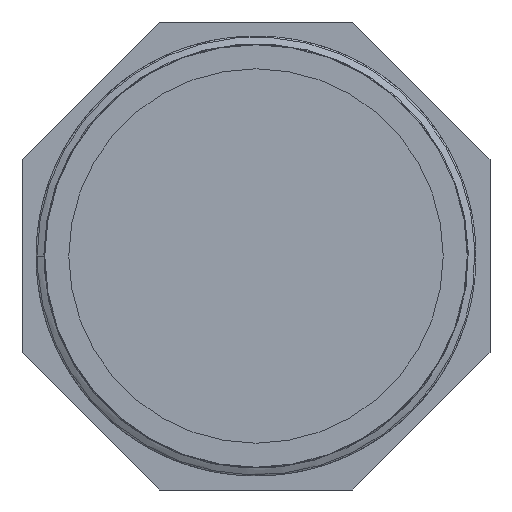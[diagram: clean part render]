
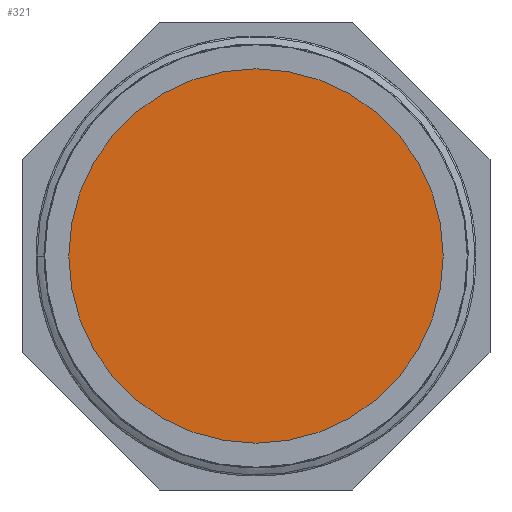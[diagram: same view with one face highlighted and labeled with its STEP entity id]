
A CAD part, front view. The second image highlights one B-rep face of the part: STEP entity #321.
In plain terms, the highlighted planar face has unit normal (0, -1, 0).
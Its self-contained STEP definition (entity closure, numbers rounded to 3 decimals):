
#22=PLANE('',#342);
#37=CIRCLE('',#343,32.);
#47=FACE_OUTER_BOUND('',#68,.T.);
#68=EDGE_LOOP('',(#263));
#166=VERTEX_POINT('',#6058);
#202=EDGE_CURVE('',#166,#166,#37,.T.);
#263=ORIENTED_EDGE('',*,*,#202,.F.);
#321=ADVANCED_FACE('',(#47),#22,.T.);
#342=AXIS2_PLACEMENT_3D('',#6057,#383,#384);
#343=AXIS2_PLACEMENT_3D('',#6059,#385,#386);
#383=DIRECTION('center_axis',(0.,-1.,0.));
#384=DIRECTION('ref_axis',(0.,0.,-1.));
#385=DIRECTION('center_axis',(0.,1.,0.));
#386=DIRECTION('ref_axis',(1.,0.,0.));
#6057=CARTESIAN_POINT('Origin',(0.,33.,0.));
#6058=CARTESIAN_POINT('',(-32.,33.,0.));
#6059=CARTESIAN_POINT('Origin',(0.,33.,0.));
